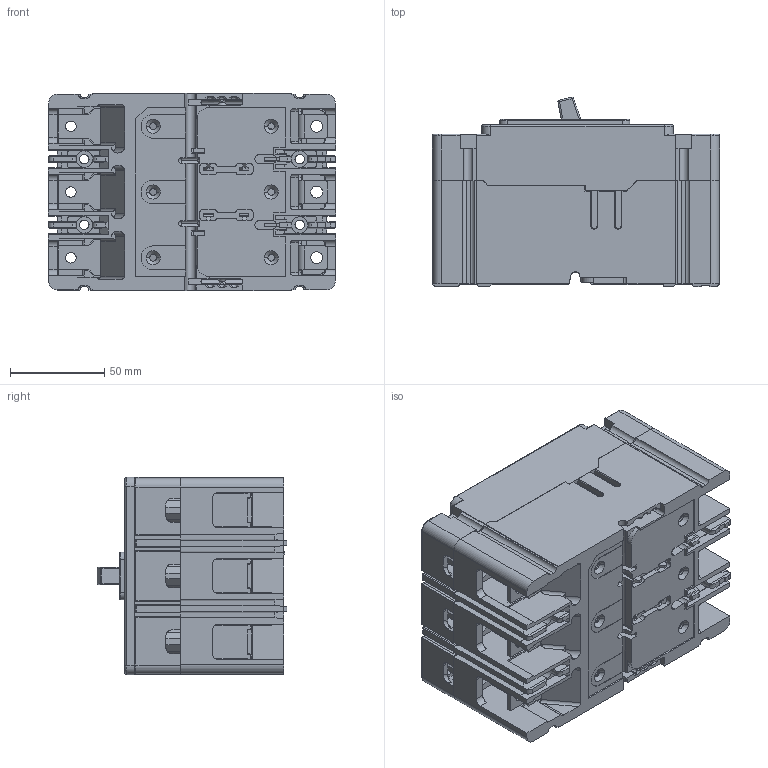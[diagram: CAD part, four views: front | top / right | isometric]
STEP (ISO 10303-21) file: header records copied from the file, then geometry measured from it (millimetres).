
FILE_DESCRIPTION((''),'2;1');
FILE_NAME('FD_3_P_ASM','2006-07-21T',('e0027238'),(''),'PRO/ENGINEER BY PARAMETRIC TECHNOLOGY CORPORATION, 2003010','PRO/ENGINEER BY PARAMETRIC TECHNOLOGY CORPORATION, 2003010','');
FILE_SCHEMA(('CONFIG_CONTROL_DESIGN'));
Length unit declared in the file: inch
Products named in the file (13): 1490D03_H06; 6640C40; 6640C31; 6640C01; 6637C16; 6640C21H10; 6648C01G25; 4220B61_G02_ASM; 1490D13H01; 1490D13H08; 1490D13H59; 6640C56; FD_3_P_ASM
Assembly tree (17 placements, depth 3):
  FD_3_P_ASM
    1490D03_H06
    6640C40
    6640C31
    6640C01
    6637C16
    4220B61_G02_ASM  x4
      6640C21H10
      6648C01G25
    1490D13H01
    1490D13H08
    1490D13H59
    6640C56  x3
Bounding box: 152.4 x 100.81 x 104.78 mm (x, y, z)
Volume: 798643.2 mm3; surface area: 449617.3 mm2
Topology: 19 solids, 19 shells, 5662 faces, 15620 edges, 10068 vertices
Faces by surface type: plane 3364, cylinder 1919, torus 203, cone 90, bspline 55, sphere 31
Entity records: 174882 total; most frequent: CARTESIAN_POINT 36437, ORIENTED_EDGE 29546, DIRECTION 28344, EDGE_CURVE 14773, VECTOR 10222, LINE 10222, VERTEX_POINT 9538, AXIS2_PLACEMENT_3D 9061
